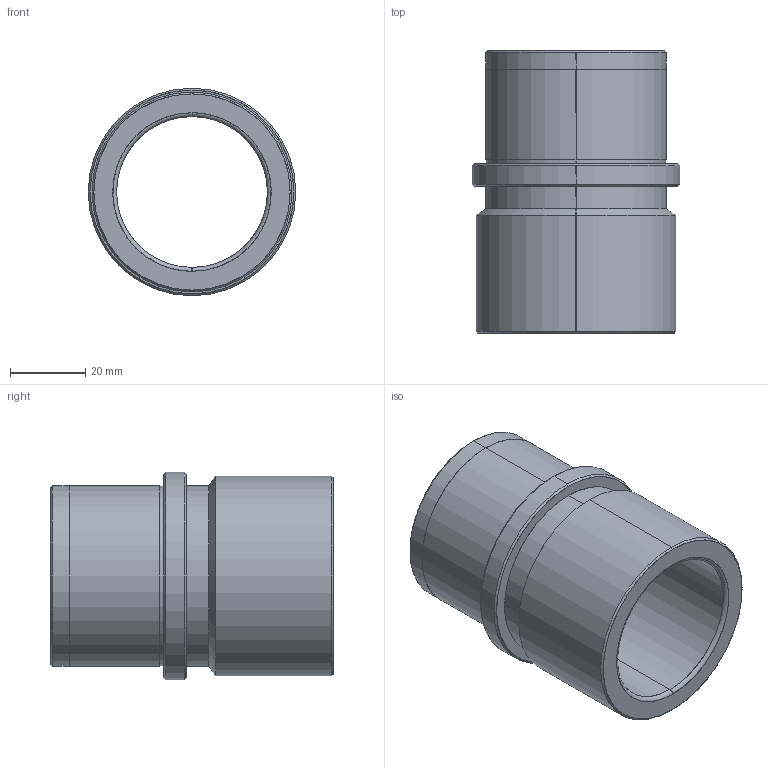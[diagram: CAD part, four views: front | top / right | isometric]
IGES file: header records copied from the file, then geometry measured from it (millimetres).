
Start section: SolidWorks IGES file using analytic representation for surfaces
Global section: file name: C:\Users\User\Desktop\D27_32x75x30 Yeni.IGS; native system: SolidWorks 2013; preprocessor: SolidWorks 2013; author: User; date: 131226.110046; units: millimetre
Bounding box: 55 x 75 x 55 mm (x, y, z)
Surface area: 23984.7 mm2 (no closed solid volume)
Topology: 0 solids, 0 shells, 34 faces, 880 edges, 880 vertices
Faces by surface type: revolution 24, bspline 10
